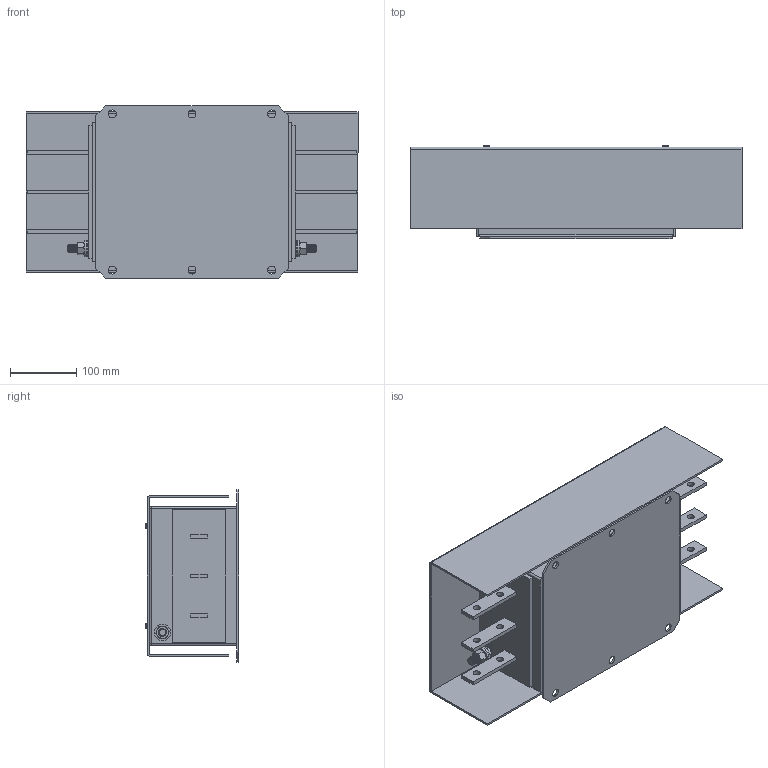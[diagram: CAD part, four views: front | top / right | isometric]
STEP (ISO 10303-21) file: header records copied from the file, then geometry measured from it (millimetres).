
FILE_DESCRIPTION (( 'STEP AP203' ), '1' );
FILE_NAME ('NF-600-STIE.STEP', '2015-01-20T10:08:54', ( 'Owner' ), ( 'EPA' ), 'SwSTEP 2.0', 'SolidWorks 2007', '' );
FILE_SCHEMA (( 'CONFIG_CONTROL_DESIGN' ));
Length unit declared in the file: millimetre
Products named in the file (8): M12x30 Earth post; NF-600-STIE; Pan Cross Head_AM_B18.6.7M - M4 x 0.7 x 8 Type I Cross Recessed PHMS --8N; Formed Hex Screw_AM_B18.2.3.2M - Formed hex screw, M12 x 1.75 x 30 --30CS; Flat Washer Narrow_AM_B18.22M - Plain washer, 12 mm, narrow; Hex Nut Style 1_AM_B18.2.4.1M - Hex nut, Style 1,  M12 x 1.75 --D-N; High current protection cover 300-600
Assembly tree (12 placements, depth 3):
  NF-600-STIE
    M12x30 Earth post  x2
      Hex Nut Style 1_AM_B18.2.4.1M - Hex nut, Style 1,  M12 x 1.75 --D-N
      Flat Washer Narrow_AM_B18.22M - Plain washer, 12 mm, narrow
      Formed Hex Screw_AM_B18.2.3.2M - Formed hex screw, M12 x 1.75 x 30 --30CS
    Pan Cross Head_AM_B18.6.7M - M4 x 0.7 x 8 Type I Cross Recessed PHMS --8N  x4
    NF-600-STIE
    High current protection cover 300-600
Bounding box: 500 x 141.07 x 260 mm (x, y, z)
Volume: 9509540.8 mm3; surface area: 840232 mm2
Topology: 14 solids, 14 shells, 574 faces, 1398 edges, 868 vertices
Faces by surface type: cone 196, cylinder 182, plane 176, sphere 12, torus 8
Entity records: 11130 total; most frequent: CARTESIAN_POINT 1959, DIRECTION 1844, ORIENTED_EDGE 1636, EDGE_CURVE 818, AXIS2_PLACEMENT_3D 729, VERTEX_POINT 516, EDGE_LOOP 394, VECTOR 386
